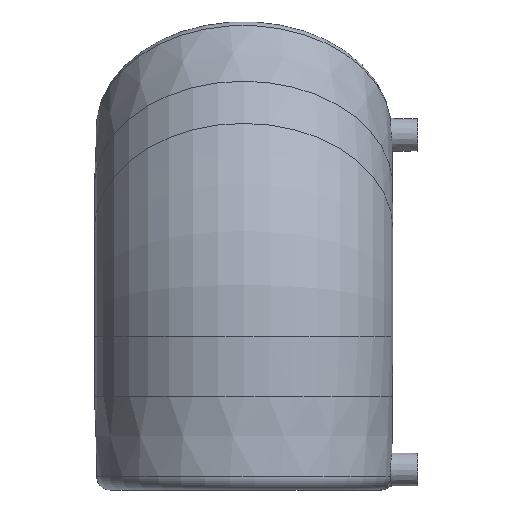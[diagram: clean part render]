
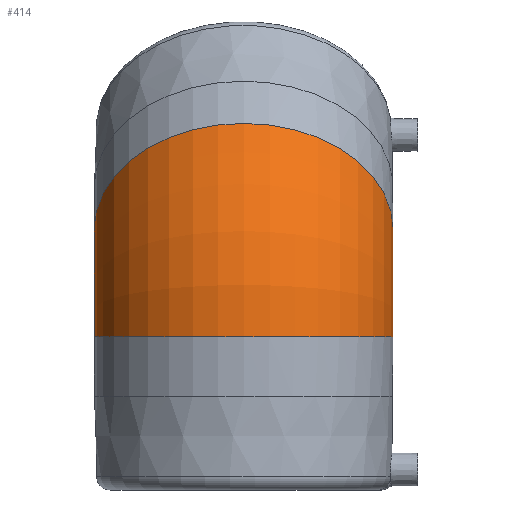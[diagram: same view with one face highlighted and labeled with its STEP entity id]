
A CAD part, left-side view. The second image highlights one B-rep face of the part: STEP entity #414.
In plain terms, the highlighted toroidal (fillet/blend) face has major radius 89.326 mm and minor radius 87.5 mm.
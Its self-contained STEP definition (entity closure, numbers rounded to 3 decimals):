
#23=TOROIDAL_SURFACE('',#481,89.326,87.5);
#57=CIRCLE('',#480,87.5);
#58=CIRCLE('',#482,87.5);
#132=ORIENTED_EDGE('',*,*,#200,.F.);
#133=ORIENTED_EDGE('',*,*,#199,.T.);
#199=EDGE_CURVE('',#242,#242,#57,.F.);
#200=EDGE_CURVE('',#243,#243,#58,.F.);
#242=VERTEX_POINT('',#818);
#243=VERTEX_POINT('',#821);
#305=EDGE_LOOP('',(#132));
#306=EDGE_LOOP('',(#133));
#366=FACE_BOUND('',#305,.T.);
#367=FACE_BOUND('',#306,.T.);
#414=ADVANCED_FACE('',(#366,#367),#23,.T.);
#480=AXIS2_PLACEMENT_3D('',#817,#582,#583);
#481=AXIS2_PLACEMENT_3D('',#819,#584,#585);
#482=AXIS2_PLACEMENT_3D('',#820,#586,#587);
#582=DIRECTION('',(0.,0.,-1.));
#583=DIRECTION('',(1.,0.,0.));
#584=DIRECTION('',(0.,1.,0.));
#585=DIRECTION('',(0.,0.,1.));
#586=DIRECTION('',(-0.707,0.,-0.707));
#587=DIRECTION('',(0.707,0.,-0.707));
#817=CARTESIAN_POINT('',(0.,0.,-37.));
#818=CARTESIAN_POINT('',(87.5,0.,-37.));
#819=CARTESIAN_POINT('',(89.326,0.,-37.));
#820=CARTESIAN_POINT('',(26.163,0.,26.163));
#821=CARTESIAN_POINT('',(88.035,0.,-35.709));
